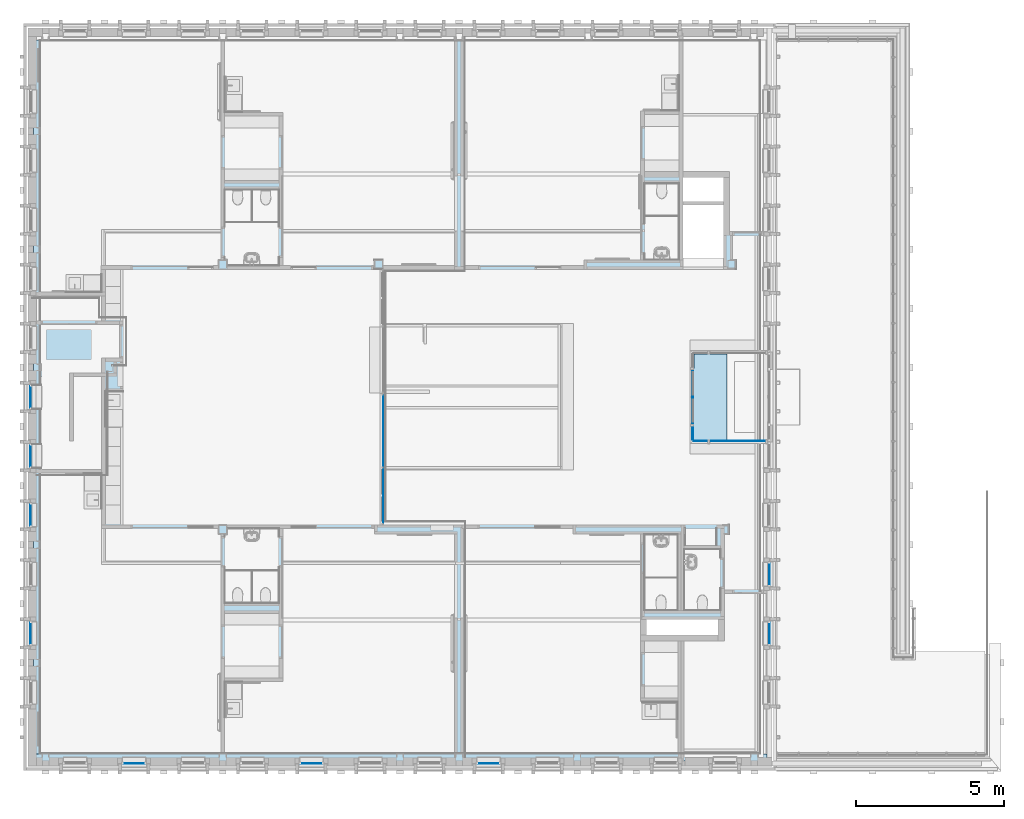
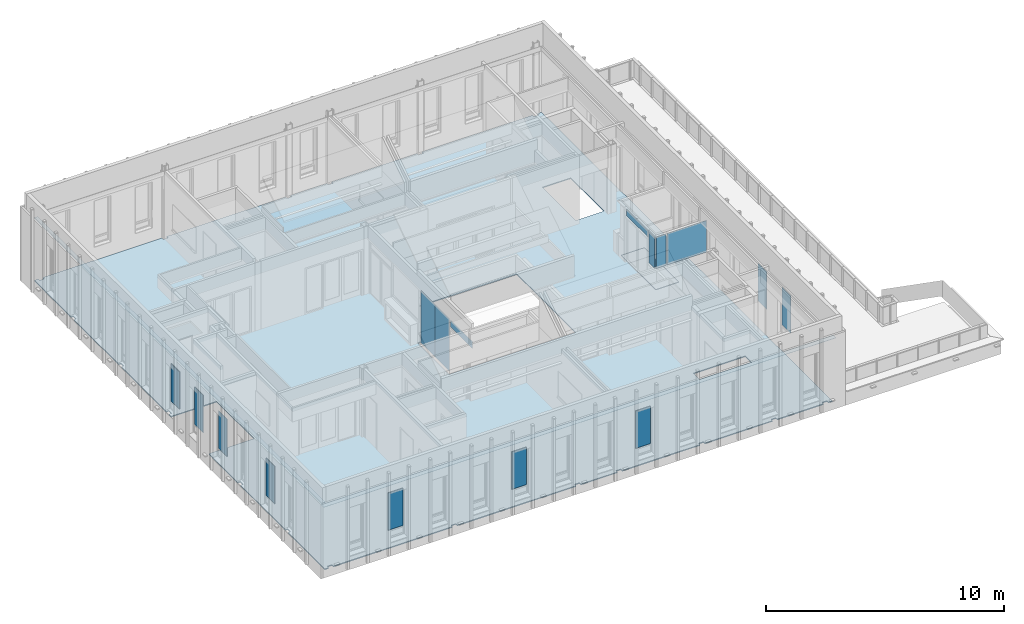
# One storey, part 18 of 118: 16 plates, 4 slabs, 3 openings, 13 elements without a shape of their own.
"""IFC2X3 building model written with IfcOpenShell, lengths in millimetres."""

from ifc_helpers import new_model, entity, si_unit, converted_unit, derived_unit, direction, frame, frame_2d, origin, origin_2d_with_axis, place, context, subcontext, project, spatial, polyline, rectangle, outline, extrude, source, transform, mapped, material, layer, layer_set, layer_usage, type_object, type_shapes, element, aggregate, save


model = new_model("IFC2X3")

# Units and contexts
model_context = context("Model", 3, precision=0.01, world=origin(), true_north=direction((6.123031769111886e-17, 1.0)))
plan_context = context("Plan", 3, precision=0.01, world=origin(), true_north=direction((6.123031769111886e-17, 1.0)))
body_context = subcontext(model_context, "Body", "Model", "MODEL_VIEW")
ifc_project = project(units=[si_unit("LENGTHUNIT", "METRE", prefix="MILLI"), si_unit("AREAUNIT", "SQUARE_METRE"), si_unit("VOLUMEUNIT", "CUBIC_METRE"), converted_unit("PLANEANGLEUNIT", "DEGREE", entity("IfcRatioMeasure", 0.017453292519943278), si_unit("PLANEANGLEUNIT", "RADIAN"), dimensions=[0, 0, 0, 0, 0, 0, 0]), si_unit("MASSUNIT", "GRAM", prefix="KILO"), derived_unit("MASSDENSITYUNIT", [(si_unit("MASSUNIT", "GRAM", prefix="KILO"), 1), (si_unit("LENGTHUNIT", "METRE"), -3)]), derived_unit("IONCONCENTRATIONUNIT", [(si_unit("MASSUNIT", "GRAM", prefix="KILO"), 1), (si_unit("LENGTHUNIT", "METRE"), -3)]), derived_unit("MOMENTOFINERTIAUNIT", [(si_unit("LENGTHUNIT", "METRE"), 4)]), si_unit("TIMEUNIT", "SECOND"), si_unit("FREQUENCYUNIT", "HERTZ"), si_unit("THERMODYNAMICTEMPERATUREUNIT", "DEGREE_CELSIUS"), derived_unit("THERMALTRANSMITTANCEUNIT", [(si_unit("MASSUNIT", "GRAM", prefix="KILO"), 1), (si_unit("THERMODYNAMICTEMPERATUREUNIT", "KELVIN"), -1), (si_unit("TIMEUNIT", "SECOND"), -3)]), derived_unit("THERMALCONDUCTANCEUNIT", [(si_unit("MASSUNIT", "GRAM", prefix="KILO"), 1), (si_unit("THERMODYNAMICTEMPERATUREUNIT", "KELVIN"), -1), (si_unit("TIMEUNIT", "SECOND"), -3), (si_unit("LENGTHUNIT", "METRE"), 1)]), derived_unit("VOLUMETRICFLOWRATEUNIT", [(si_unit("LENGTHUNIT", "METRE"), 3), (si_unit("TIMEUNIT", "SECOND"), -1)]), derived_unit("MASSFLOWRATEUNIT", [(si_unit("MASSUNIT", "GRAM", prefix="KILO"), 1), (si_unit("TIMEUNIT", "SECOND"), -1)]), derived_unit("ROTATIONALFREQUENCYUNIT", [(si_unit("TIMEUNIT", "SECOND"), -1)]), si_unit("ELECTRICCURRENTUNIT", "AMPERE"), si_unit("ELECTRICVOLTAGEUNIT", "VOLT"), si_unit("POWERUNIT", "WATT"), si_unit("FORCEUNIT", "NEWTON", prefix="KILO"), si_unit("ILLUMINANCEUNIT", "LUX"), si_unit("LUMINOUSFLUXUNIT", "LUMEN"), si_unit("LUMINOUSINTENSITYUNIT", "CANDELA"), derived_unit("USERDEFINED", [(si_unit("MASSUNIT", "GRAM", prefix="KILO"), -1), (si_unit("LENGTHUNIT", "METRE"), -2), (si_unit("TIMEUNIT", "SECOND"), 3), (si_unit("LUMINOUSFLUXUNIT", "LUMEN"), 1)]), derived_unit("USERDEFINED", [(si_unit("MASSUNIT", "GRAM", prefix="KILO"), 1), (si_unit("TIMEUNIT", "SECOND"), -3), (si_unit("LENGTHUNIT", "METRE"), 3), (si_unit("ELECTRICCURRENTUNIT", "AMPERE"), -2)]), derived_unit("SOUNDPOWERUNIT", [(si_unit("MASSUNIT", "GRAM", prefix="KILO"), 1), (si_unit("TIMEUNIT", "SECOND"), -3), (si_unit("LENGTHUNIT", "METRE"), 2)]), derived_unit("SOUNDPRESSUREUNIT", [(si_unit("MASSUNIT", "GRAM", prefix="KILO"), 1), (si_unit("LENGTHUNIT", "METRE"), -1), (si_unit("TIMEUNIT", "SECOND"), -2)]), derived_unit("LINEARVELOCITYUNIT", [(si_unit("LENGTHUNIT", "METRE"), 1), (si_unit("TIMEUNIT", "SECOND"), -1)]), si_unit("PRESSUREUNIT", "PASCAL"), derived_unit("USERDEFINED", [(si_unit("MASSUNIT", "GRAM", prefix="KILO"), 1), (si_unit("LENGTHUNIT", "METRE"), -2), (si_unit("TIMEUNIT", "SECOND"), -2)]), derived_unit("LINEARFORCEUNIT", [(si_unit("MASSUNIT", "GRAM", prefix="KILO"), 1), (si_unit("TIMEUNIT", "SECOND"), -2)]), derived_unit("PLANARFORCEUNIT", [(si_unit("MASSUNIT", "GRAM", prefix="KILO"), 1), (si_unit("LENGTHUNIT", "METRE"), -1), (si_unit("TIMEUNIT", "SECOND"), -2)]), derived_unit("SPECIFICHEATCAPACITYUNIT", [(si_unit("THERMODYNAMICTEMPERATUREUNIT", "KELVIN"), -1), (si_unit("LENGTHUNIT", "METRE"), 2), (si_unit("TIMEUNIT", "SECOND"), -2)]), derived_unit("HEATINGVALUEUNIT", [(si_unit("LENGTHUNIT", "METRE"), 2), (si_unit("TIMEUNIT", "SECOND"), -2)]), derived_unit("VAPORPERMEABILITYUNIT", [(si_unit("LENGTHUNIT", "METRE"), -1), (si_unit("TIMEUNIT", "SECOND"), 1)]), derived_unit("DYNAMICVISCOSITYUNIT", [(si_unit("MASSUNIT", "GRAM", prefix="KILO"), 1), (si_unit("TIMEUNIT", "SECOND"), -1), (si_unit("LENGTHUNIT", "METRE"), -1)]), derived_unit("THERMALEXPANSIONCOEFFICIENTUNIT", [(si_unit("THERMODYNAMICTEMPERATUREUNIT", "KELVIN"), -1)]), derived_unit("MODULUSOFELASTICITYUNIT", [(si_unit("MASSUNIT", "GRAM", prefix="KILO"), 1), (si_unit("LENGTHUNIT", "METRE"), -1), (si_unit("TIMEUNIT", "SECOND"), -2)]), derived_unit("ISOTHERMALMOISTURECAPACITYUNIT", [(si_unit("LENGTHUNIT", "METRE"), 3), (si_unit("MASSUNIT", "GRAM", prefix="KILO"), -1)]), derived_unit("MOISTUREDIFFUSIVITYUNIT", [(si_unit("TIMEUNIT", "SECOND"), -1), (si_unit("LENGTHUNIT", "METRE"), 2)])], contexts=[model_context, plan_context])

# Site, building, storey
site_placement = place(None, origin())
site = spatial("IfcSite", under=ifc_project, at=site_placement, Name="Locatie", CompositionType="ELEMENT")
building_placement = place(site_placement, origin())
building = spatial("IfcBuilding", under=site, at=building_placement, Name="Bouwwerk", CompositionType="ELEMENT")
storey_placement = place(building_placement, frame((0.0, 0.0, 7800.0)))
storey = spatial("IfcBuildingStorey", under=building, at=storey_placement, Name="02 tweede verdieping", CompositionType="ELEMENT", Elevation=7800.000000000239)

# Slab, openings
ifc_material_1 = material(Name="q2_cementdekvloer")
ifc_layer_1 = layer(ifc_material_1, 50.0)
ifc_layer_set_1 = layer_set([ifc_layer_1], Name="Floor:NLRS_43_FL_cementdekvloer 50_gen_ISR")
ifc_layer_usage_1 = layer_usage(ifc_layer_set_1, "AXIS3", "POSITIVE", 0.0)
slab_type_1 = type_object("IfcSlabType", Name="Floor:NLRS_43_FL_cementdekvloer 50_gen_ISR", PredefinedType="FLOOR", material=ifc_layer_set_1)
slab_1_placement = place(storey_placement, frame((10000.0, 10000.0, -50.0)))
slab_1 = element("IfcSlab", 1, at=slab_1_placement, inside=storey, type_object=slab_type_1, material=ifc_layer_usage_1, Name="Floor:NLRS_43_FL_cementdekvloer 50_gen_ISR", ObjectType="Floor:NLRS_43_FL_cementdekvloer 50_gen_ISR", PredefinedType="FLOOR", context=body_context, shape_type="SweptSolid", body=[
    extrude(outline(polyline([(-12115.0, -12200.0), (-12115.0, -12085.0), (-11885.0, -12085.0), (-11885.0, -12200.0), (-9627.50000055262, -12200.0), (-9627.50000055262, -12085.0), (-9397.500000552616, -12085.0), (-9397.500000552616, -12200.0), (-6115.0, -12200.0), (-6115.0, -12085.0), (-5885.0, -12085.0), (-5885.0, -12200.0), (-2115.0, -12200.0), (-2115.0, -12085.0), (-1885.0, -12085.0), (-1885.0, -12200.0), (-115.0, -12200.0), (-115.0, -12085.0), (115.0, -12085.0), (115.0, -12200.0), (5885.0, -12200.0), (5885.0, -12085.0), (6115.0, -12085.0), (6115.0, -12200.0), (11885.0, -12200.0), (11885.0, -12085.0), (12115.0, -12085.0), (12115.0, -12200.0), (12300.0, -12200.0), (12300.0, -9115.0), (12185.0, -9115.0), (12185.0, -8885.0), (12300.0, -8885.0), (12300.0, -5115.755486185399), (12185.0, -5115.755486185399), (12185.0, -4885.755486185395), (12300.0, -4885.755486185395), (12300.0, -2450.0), (10100.0, -2450.0), (10100.0, 695.0), (12300.0, 695.0), (12300.0, 885.0), (12185.0, 885.0), (12185.0, 1115.0), (12300.0, 1115.0), (12300.0, 4885.0), (12185.0, 4885.0), (12185.0, 5115.0), (12300.0, 5115.0), (12300.0, 8885.0), (12185.0, 8885.0), (12185.0, 9115.0), (12300.0, 9115.0), (12300.0, 12200.0), (12115.0, 12200.0), (12115.0, 12085.0), (11885.0, 12085.0), (11885.0, 12200.0), (6115.0, 12200.0), (6115.0, 12085.0), (5885.0, 12085.0), (5885.0, 12200.0), (115.0, 12200.0), (115.0, 12085.0), (-115.0, 12085.0), (-115.0, 12200.0), (-1885.0, 12200.0), (-1885.0, 12085.0), (-2115.0, 12085.0), (-2115.0, 12200.0), (-6262.500000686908, 12200.0), (-6262.500000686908, 12085.0), (-6492.500000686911, 12085.0), (-6492.500000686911, 12200.0), (-11860.326227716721, 12200.0), (-11860.326227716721, 12085.0), (-12090.326227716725, 12085.0), (-12090.326227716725, 12200.0), (-12300.0, 12200.0), (-12300.0, -12200.0), (-12115.0, -12200.0)])), frame((12300.0, 12200.0, 50.0), z_axis=(0.0, 0.0, -1.0), x_axis=(-1.0, 0.0, 0.0)), (0.0, 0.0, 1.0), 49.99999999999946),
])
opening_1_placement = place(slab_1_placement, origin())
element("IfcOpeningElement", 2, at=opening_1_placement, cuts=slab_1, Name="Floor:NLRS_43_FL_cementdekvloer 50_gen_ISR", ObjectType="Opening", context=body_context, shape_type="SweptSolid", body=[
    extrude(rectangle(XDim=2800.999999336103, YDim=1379.9999990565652, at=frame_2d((2.1600499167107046e-12, -2.1600499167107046e-12), x_axis=(1.0, 0.0))), frame((22565.0, 18224.499999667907, 50.0), z_axis=(0.0, 0.0, -1.0), x_axis=(0.0, 1.0, 0.0)), (0.0, 0.0, 1.0), 50.0),
])
opening_2_placement = place(slab_1_placement, origin())
element("IfcOpeningElement", 3, at=opening_2_placement, cuts=slab_1, Name="Floor:NLRS_43_FL_cementdekvloer 50_gen_ISR", ObjectType="Opening", context=body_context, shape_type="SweptSolid", body=[
    extrude(outline(polyline([(-2962.6157784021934, -2233.2499998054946), (-302.65266450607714, -2233.2499998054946), (-302.65266450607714, -873.250000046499), (1259.884221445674, -873.250000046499), (1259.884221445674, -798.250000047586), (2005.3842214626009, -798.250000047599), (2005.3842214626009, 3904.749999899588), (-2962.6157784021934, 3904.749999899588), (-2962.6157784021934, -2233.2499998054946)])), frame((13873.250000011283, 12684.952664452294, 50.0), z_axis=(0.0, 0.0, -1.0), x_axis=(0.0, 1.0, 0.0)), (0.0, 0.0, 1.0), 50.0),
])
opening_3_placement = place(slab_1_placement, origin())
element("IfcOpeningElement", 4, at=opening_3_placement, cuts=slab_1, Name="Floor:NLRS_43_FL_cementdekvloer 50_gen_ISR", ObjectType="Opening", context=body_context, shape_type="SweptSolid", body=[
    extrude(rectangle(XDim=2505.0000073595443, YDim=519.9999999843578, at=frame_2d((-2.1600499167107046e-12, -2.1884716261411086e-12), x_axis=(1.0, 0.0))), frame((21822.499996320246, 4410.0, 50.0), z_axis=(0.0, 0.0, -1.0), x_axis=(-1.0, 0.0, 0.0)), (0.0, 0.0, 1.0), 50.0),
])

# Curtain wall, plate
curtain_wall_type_1 = type_object("IfcCurtainWallType", Name="Curtain Wall:NLRS_21_CW_Ontwerpkozijn_aluminium_RT72", PredefinedType="NOTDEFINED")
curtain_wall_1_placement = place(storey_placement, frame((0.0, 0.0, -7800.0)))
curtain_wall_1 = element("IfcCurtainWall", 5, at=curtain_wall_1_placement, inside=storey, type_object=curtain_wall_type_1, Name="Curtain Wall:NLRS_21_CW_Ontwerpkozijn_aluminium_RT72", ObjectType="Curtain Wall:NLRS_21_CW_Ontwerpkozijn_aluminium_RT72")
ifc_material_2 = material(Name="ISR_Glas")
plate_type_1 = type_object("IfcPlateType", Name="System Panel:RT72_glas", PredefinedType="CURTAIN_PANEL", material=ifc_material_2)
shared_shape_1 = source(origin(), body_context, "Body", "SweptSolid", [
    extrude(rectangle(XDim=23.0, YDim=713.999999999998, at=origin_2d_with_axis()), frame((0.0, 53.5, 0.0), z_axis=(0.0, 0.0, 1.0), x_axis=(0.0, 1.0, 0.0)), (0.0, 0.0, 1.0), 1918.999999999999),
])
type_shapes(plate_type_1, [shared_shape_1])
plate_1_placement = place(curtain_wall_1_placement, frame((25300.0, 9847.0, 8876.0), z_axis=(0.0, 0.0, 1.0), x_axis=(-1.0, 0.0, 0.0)))
plate_1 = element("IfcPlate", 6, at=plate_1_placement, type_object=plate_type_1, material=ifc_material_2, Name="System Panel:RT72_glas", ObjectType="System Panel:RT72_glas", context=body_context, shape_type="MappedRepresentation", body=[
    mapped(shared_shape_1, transform((0.0, 0.0, 0.0), scale=1.0)),
])
aggregate(curtain_wall_1, [plate_1])

curtain_wall_2_placement = place(storey_placement, frame((0.0, 0.0, -7800.0)))
curtain_wall_2 = element("IfcCurtainWall", 7, at=curtain_wall_2_placement, inside=storey, type_object=curtain_wall_type_1, Name="Curtain Wall:NLRS_21_CW_Ontwerpkozijn_aluminium_RT72", ObjectType="Curtain Wall:NLRS_21_CW_Ontwerpkozijn_aluminium_RT72")
plate_2_placement = place(curtain_wall_2_placement, frame((19300.0, 9847.0, 8876.0), z_axis=(0.0, 0.0, 1.0), x_axis=(-1.0, 0.0, 0.0)))
plate_2 = element("IfcPlate", 8, at=plate_2_placement, type_object=plate_type_1, material=ifc_material_2, Name="System Panel:RT72_glas", ObjectType="System Panel:RT72_glas", context=body_context, shape_type="MappedRepresentation", body=[
    mapped(shared_shape_1, transform((0.0, 0.0, 0.0), scale=1.0)),
])
aggregate(curtain_wall_2, [plate_2])

curtain_wall_3_placement = place(storey_placement, frame((0.0, 0.0, -7800.0)))
curtain_wall_3 = element("IfcCurtainWall", 9, at=curtain_wall_3_placement, inside=storey, type_object=curtain_wall_type_1, Name="Curtain Wall:NLRS_21_CW_Ontwerpkozijn_aluminium_RT72", ObjectType="Curtain Wall:NLRS_21_CW_Ontwerpkozijn_aluminium_RT72")
plate_3_placement = place(curtain_wall_3_placement, frame((13300.0, 9847.0, 8876.0), z_axis=(0.0, 0.0, 1.0), x_axis=(-1.0, 0.0, 0.0)))
plate_3 = element("IfcPlate", 10, at=plate_3_placement, type_object=plate_type_1, material=ifc_material_2, Name="System Panel:RT72_glas", ObjectType="System Panel:RT72_glas", context=body_context, shape_type="MappedRepresentation", body=[
    mapped(shared_shape_1, transform((0.0, 0.0, 0.0), scale=1.0)),
])
aggregate(curtain_wall_3, [plate_3])

curtain_wall_4_placement = place(storey_placement, frame((0.0, 0.0, -7800.0)))
curtain_wall_4 = element("IfcCurtainWall", 11, at=curtain_wall_4_placement, inside=storey, type_object=curtain_wall_type_1, Name="Curtain Wall:NLRS_21_CW_Ontwerpkozijn_aluminium_RT72", ObjectType="Curtain Wall:NLRS_21_CW_Ontwerpkozijn_aluminium_RT72")
plate_4_placement = place(curtain_wall_4_placement, frame((34753.0, 14200.0, 8876.0), z_axis=(0.0, 0.0, 1.0), x_axis=(0.0, -1.0, 0.0)))
plate_4 = element("IfcPlate", 12, at=plate_4_placement, type_object=plate_type_1, material=ifc_material_2, Name="System Panel:RT72_glas", ObjectType="System Panel:RT72_glas", context=body_context, shape_type="MappedRepresentation", body=[
    mapped(shared_shape_1, transform((0.0, 0.0, 0.0), scale=1.0)),
])
aggregate(curtain_wall_4, [plate_4])

curtain_wall_5_placement = place(storey_placement, frame((0.0, 0.0, -7800.0)))
curtain_wall_5 = element("IfcCurtainWall", 13, at=curtain_wall_5_placement, inside=storey, type_object=curtain_wall_type_1, Name="Curtain Wall:NLRS_21_CW_Ontwerpkozijn_aluminium_RT72", ObjectType="Curtain Wall:NLRS_21_CW_Ontwerpkozijn_aluminium_RT72")
plate_5_placement = place(curtain_wall_5_placement, frame((34753.0, 16200.0, 8876.0), z_axis=(0.0, 0.0, 1.0), x_axis=(0.0, -1.0, 0.0)))
plate_5 = element("IfcPlate", 14, at=plate_5_placement, type_object=plate_type_1, material=ifc_material_2, Name="System Panel:RT72_glas", ObjectType="System Panel:RT72_glas", context=body_context, shape_type="MappedRepresentation", body=[
    mapped(shared_shape_1, transform((0.0, 0.0, 0.0), scale=1.0)),
])
aggregate(curtain_wall_5, [plate_5])

curtain_wall_6_placement = place(storey_placement, frame((0.0, 0.0, -7800.0)))
curtain_wall_6 = element("IfcCurtainWall", 15, at=curtain_wall_6_placement, inside=storey, type_object=curtain_wall_type_1, Name="Curtain Wall:NLRS_21_CW_Ontwerpkozijn_aluminium_RT72", ObjectType="Curtain Wall:NLRS_21_CW_Ontwerpkozijn_aluminium_RT72")
plate_6_placement = place(curtain_wall_6_placement, frame((9847.0, 14200.0, 8876.0), z_axis=(0.0, 0.0, 1.0), x_axis=(0.0, 1.0, 0.0)))
plate_6 = element("IfcPlate", 16, at=plate_6_placement, type_object=plate_type_1, material=ifc_material_2, Name="System Panel:RT72_glas", ObjectType="System Panel:RT72_glas", context=body_context, shape_type="MappedRepresentation", body=[
    mapped(shared_shape_1, transform((0.0, 0.0, 0.0), scale=1.0)),
])
aggregate(curtain_wall_6, [plate_6])

curtain_wall_7_placement = place(storey_placement, frame((0.0, 0.0, -7800.0)))
curtain_wall_7 = element("IfcCurtainWall", 17, at=curtain_wall_7_placement, inside=storey, type_object=curtain_wall_type_1, Name="Curtain Wall:NLRS_21_CW_Ontwerpkozijn_aluminium_RT72", ObjectType="Curtain Wall:NLRS_21_CW_Ontwerpkozijn_aluminium_RT72")
plate_7_placement = place(curtain_wall_7_placement, frame((9847.0, 18200.0, 8876.0), z_axis=(0.0, 0.0, 1.0), x_axis=(0.0, 1.0, 0.0)))
plate_7 = element("IfcPlate", 18, at=plate_7_placement, type_object=plate_type_1, material=ifc_material_2, Name="System Panel:RT72_glas", ObjectType="System Panel:RT72_glas", context=body_context, shape_type="MappedRepresentation", body=[
    mapped(shared_shape_1, transform((0.0, 0.0, 0.0), scale=1.0)),
])
aggregate(curtain_wall_7, [plate_7])

curtain_wall_8_placement = place(storey_placement, frame((0.0, 0.0, -7800.0)))
curtain_wall_8 = element("IfcCurtainWall", 19, at=curtain_wall_8_placement, inside=storey, type_object=curtain_wall_type_1, Name="Curtain Wall:NLRS_21_CW_Ontwerpkozijn_aluminium_RT72", ObjectType="Curtain Wall:NLRS_21_CW_Ontwerpkozijn_aluminium_RT72")
plate_8_placement = place(curtain_wall_8_placement, frame((9847.0, 20200.0, 8876.0), z_axis=(0.0, 0.0, 1.0), x_axis=(0.0, 1.0, 0.0)))
plate_8 = element("IfcPlate", 20, at=plate_8_placement, type_object=plate_type_1, material=ifc_material_2, Name="System Panel:RT72_glas", ObjectType="System Panel:RT72_glas", context=body_context, shape_type="MappedRepresentation", body=[
    mapped(shared_shape_1, transform((0.0, 0.0, 0.0), scale=1.0)),
])
aggregate(curtain_wall_8, [plate_8])

curtain_wall_9_placement = place(storey_placement, frame((0.0, 0.0, -7800.0)))
curtain_wall_9 = element("IfcCurtainWall", 21, at=curtain_wall_9_placement, inside=storey, type_object=curtain_wall_type_1, Name="Curtain Wall:NLRS_21_CW_Ontwerpkozijn_aluminium_RT72", ObjectType="Curtain Wall:NLRS_21_CW_Ontwerpkozijn_aluminium_RT72")
plate_9_placement = place(curtain_wall_9_placement, frame((9847.0, 22200.0, 8876.0), z_axis=(0.0, 0.0, 1.0), x_axis=(0.0, 1.0, 0.0)))
plate_9 = element("IfcPlate", 22, at=plate_9_placement, type_object=plate_type_1, material=ifc_material_2, Name="System Panel:RT72_glas", ObjectType="System Panel:RT72_glas", context=body_context, shape_type="MappedRepresentation", body=[
    mapped(shared_shape_1, transform((0.0, 0.0, 0.0), scale=1.0)),
])
aggregate(curtain_wall_9, [plate_9])

# Curtain wall, plates
curtain_wall_type_2 = type_object("IfcCurtainWallType", Name="Curtain Wall:32_BDG_Jansen Economy 50", PredefinedType="NOTDEFINED")
curtain_wall_10_placement = place(storey_placement, frame((0.0, 0.0, -7800.0)))
curtain_wall_10 = element("IfcCurtainWall", 23, at=curtain_wall_10_placement, inside=storey, type_object=curtain_wall_type_2, Name="Curtain Wall:32_BDG_Jansen Economy 50", ObjectType="Curtain Wall:32_BDG_Jansen Economy 50")
plate_type_2 = type_object("IfcPlateType", Name="System Panel:glas binnen stalen kozijnen", PredefinedType="CURTAIN_PANEL", material=ifc_material_2)
shared_shape_2 = source(origin(), body_context, "Body", "SweptSolid", [
    extrude(rectangle(XDim=2679.9999999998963, YDim=1206.249999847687, at=frame_2d((-158.12500000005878, 0.0), x_axis=(1.0, 0.0))), frame((0.0, 13.55000000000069, 1498.125000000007), z_axis=(0.0, 1.0, 0.0), x_axis=(0.0, 0.0, 1.0)), (0.0, 0.0, 1.0), 5.5),
])
type_shapes(plate_type_2, [shared_shape_2])
plate_10_placement = place(curtain_wall_10_placement, frame((21717.0, 21656.711885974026, 7860.0), z_axis=(0.0, 0.0, 1.0), x_axis=(0.0, -1.0, 0.0)))
plate_10 = element("IfcPlate", 24, at=plate_10_placement, type_object=plate_type_2, material=ifc_material_2, Name="System Panel:glas binnen stalen kozijnen", ObjectType="System Panel:glas binnen stalen kozijnen", context=body_context, shape_type="MappedRepresentation", body=[
    mapped(shared_shape_2, transform((0.0, 0.0, 0.0), scale=1.0)),
])
plate_11_placement = place(curtain_wall_10_placement, frame((21717.0, 20450.461886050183, 7860.0), z_axis=(0.0, 0.0, 1.0), x_axis=(0.0, -1.0, 0.0)))
plate_11 = element("IfcPlate", 25, at=plate_11_placement, type_object=plate_type_2, material=ifc_material_2, Name="System Panel:glas binnen stalen kozijnen", ObjectType="System Panel:glas binnen stalen kozijnen", context=body_context, shape_type="MappedRepresentation", body=[
    mapped(shared_shape_2, transform((0.0, 0.0, 0.0), scale=1.0)),
])
plate_type_3 = type_object("IfcPlateType", Name="System Panel:glas binnen stalen kozijnen", PredefinedType="CURTAIN_PANEL", material=ifc_material_2)
shared_shape_3 = source(origin(), body_context, "Body", "SweptSolid", [
    extrude(rectangle(XDim=357.49999999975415, YDim=1852.3368863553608, at=frame_2d((0.0, -0.3894810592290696), x_axis=(1.0, 0.0))), frame((0.3894810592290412, 13.549999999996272, 178.74999999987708), z_axis=(0.0, 1.0, 0.0), x_axis=(0.0, 0.0, 1.0)), (0.0, 0.0, 1.0), 5.5),
])
type_shapes(plate_type_3, [shared_shape_3])
plate_12_placement = place(curtain_wall_10_placement, frame((21717.0, 18861.168442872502, 10182.500000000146), z_axis=(0.0, 0.0, 1.0), x_axis=(0.0, -1.0, 0.0)))
plate_12 = element("IfcPlate", 26, at=plate_12_placement, type_object=plate_type_3, material=ifc_material_2, Name="System Panel:glas binnen stalen kozijnen", ObjectType="System Panel:glas binnen stalen kozijnen", context=body_context, shape_type="MappedRepresentation", body=[
    mapped(shared_shape_3, transform((0.0, 0.0, 0.0), scale=1.0)),
])
aggregate(curtain_wall_10, [plate_10, plate_11, plate_12])

# Curtain wall, plate
curtain_wall_type_3 = type_object("IfcCurtainWallType", Name="Curtain Wall:32_ontwerpkozijn binnen 125*67", PredefinedType="NOTDEFINED")
curtain_wall_11_placement = place(storey_placement, frame((0.0, 0.0, -7800.0)))
curtain_wall_11 = element("IfcCurtainWall", 27, at=curtain_wall_11_placement, inside=storey, type_object=curtain_wall_type_3, Name="Curtain Wall:32_ontwerpkozijn binnen 125*67", ObjectType="Curtain Wall:32_ontwerpkozijn binnen 125*67")
plate_type_4 = type_object("IfcPlateType", Name="System Panel:glas_offset-35", PredefinedType="CURTAIN_PANEL", material=ifc_material_2)
shared_shape_4 = source(origin(), body_context, "Body", "SweptSolid", [
    extrude(rectangle(XDim=346.00000000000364, YDim=1831.9999999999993, at=origin_2d_with_axis()), frame((0.0, -53.500000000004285, 173.0), z_axis=(0.0, 1.0, 0.0), x_axis=(0.0, 0.0, 1.0)), (0.0, 0.0, 1.0), 25.0),
])
type_shapes(plate_type_4, [shared_shape_4])
plate_13_placement = place(curtain_wall_11_placement, frame((32250.0, 22200.0, 10187.0), z_axis=(0.0, 0.0, 1.0), x_axis=(0.0, -1.0, 0.0)))
plate_13 = element("IfcPlate", 28, at=plate_13_placement, type_object=plate_type_4, material=ifc_material_2, Name="System Panel:glas_offset-35", ObjectType="System Panel:glas_offset-35", context=body_context, shape_type="MappedRepresentation", body=[
    mapped(shared_shape_4, transform((0.0, 0.0, 0.0), scale=1.0)),
])
aggregate(curtain_wall_11, [plate_13])

curtain_wall_12_placement = place(storey_placement, frame((0.0, 0.0, -7800.0)))
curtain_wall_12 = element("IfcCurtainWall", 29, at=curtain_wall_12_placement, inside=storey, type_object=curtain_wall_type_3, Name="Curtain Wall:32_ontwerpkozijn binnen 125*67", ObjectType="Curtain Wall:32_ontwerpkozijn binnen 125*67")
plate_type_5 = type_object("IfcPlateType", Name="System Panel:glas_offset-35", PredefinedType="CURTAIN_PANEL", material=ifc_material_2)
shared_shape_5 = source(origin(), body_context, "Body", "SweptSolid", [
    extrude(rectangle(XDim=25.0, YDim=466.99999999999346, at=origin_2d_with_axis()), frame((0.0, 41.0, 0.0), z_axis=(0.0, 0.0, 1.0), x_axis=(0.0, 1.0, 0.0)), (0.0, 0.0, 1.0), 1616.000000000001),
])
type_shapes(plate_type_5, [shared_shape_5])
plate_14_placement = place(curtain_wall_12_placement, frame((32250.0, 20983.500000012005, 8917.0), z_axis=(0.0, 0.0, 1.0), x_axis=(0.0, 1.0, 0.0)))
plate_14 = element("IfcPlate", 30, at=plate_14_placement, type_object=plate_type_5, material=ifc_material_2, Name="System Panel:glas_offset-35", ObjectType="System Panel:glas_offset-35", context=body_context, shape_type="MappedRepresentation", body=[
    mapped(shared_shape_5, transform((0.0, 0.0, 0.0), scale=1.0)),
])
aggregate(curtain_wall_12, [plate_14])

curtain_wall_13_placement = place(storey_placement, frame((0.0, 0.0, -7800.0)))
curtain_wall_13 = element("IfcCurtainWall", 31, at=curtain_wall_13_placement, inside=storey, type_object=curtain_wall_type_3, Name="Curtain Wall:32_ontwerpkozijn binnen 125*67", ObjectType="Curtain Wall:32_ontwerpkozijn binnen 125*67")
plate_15_placement = place(curtain_wall_13_placement, frame((32483.500000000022, 20750.0, 8917.0), z_axis=(0.0, 0.0, 1.0), x_axis=(-1.0, 0.0, 0.0)))
plate_15 = element("IfcPlate", 32, at=plate_15_placement, type_object=plate_type_5, material=ifc_material_2, Name="System Panel:glas_offset-35", ObjectType="System Panel:glas_offset-35", context=body_context, shape_type="MappedRepresentation", body=[
    mapped(shared_shape_5, transform((0.0, 0.0, 0.0), scale=1.0)),
])

# Slab
ifc_material_3 = material(Name="ISR_Vloer_afwerking_schoonloop")
ifc_layer_2 = layer(ifc_material_3, 5.0)
ifc_layer_set_2 = layer_set([ifc_layer_2], Name="Floor:43_FL_schoonloopmat_5")
ifc_layer_usage_2 = layer_usage(ifc_layer_set_2, "AXIS3", "POSITIVE", 0.0)
slab_type_2 = type_object("IfcSlabType", Name="Floor:43_FL_schoonloopmat_5", PredefinedType="FLOOR", material=ifc_layer_set_2)
slab_2_placement = place(storey_placement, origin())
element("IfcSlab", 33, at=slab_2_placement, inside=storey, type_object=slab_type_2, material=ifc_layer_usage_2, Name="Floor:43_FL_schoonloopmat_5", ObjectType="Floor:43_FL_schoonloopmat_5", PredefinedType="FLOOR", context=body_context, shape_type="SweptSolid", body=[
    extrude(rectangle(XDim=2899.9999999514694, YDim=1124.9999999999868, at=origin_2d_with_axis()), frame((32812.50000000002, 22200.0, 5.0), z_axis=(0.0, 0.0, -1.0), x_axis=(0.0, 1.0, 0.0)), (0.0, 0.0, 1.0), 4.999999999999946),
])

# Plate
plate_type_6 = type_object("IfcPlateType", Name="System Panel:glas_offset-35", PredefinedType="CURTAIN_PANEL", material=ifc_material_2)
shared_shape_6 = source(origin(), body_context, "Body", "SweptSolid", [
    extrude(rectangle(XDim=25.0, YDim=1896.8000000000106, at=origin_2d_with_axis()), frame((0.0, 41.0, 0.0), z_axis=(0.0, 0.0, 1.0), x_axis=(0.0, 1.0, 0.0)), (0.0, 0.0, 1.0), 1616.000000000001),
])
type_shapes(plate_type_6, [shared_shape_6])
plate_16_placement = place(curtain_wall_13_placement, frame((33732.40000000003, 20750.0, 8917.0), z_axis=(0.0, 0.0, 1.0), x_axis=(-1.0, 0.0, 0.0)))
plate_16 = element("IfcPlate", 34, at=plate_16_placement, type_object=plate_type_6, material=ifc_material_2, Name="System Panel:glas_offset-35", ObjectType="System Panel:glas_offset-35", context=body_context, shape_type="MappedRepresentation", body=[
    mapped(shared_shape_6, transform((0.0, 0.0, 0.0), scale=1.0)),
])

aggregate(curtain_wall_13, [plate_16, plate_15])

# Slabs
ifc_material_4 = material(Name="ISR_brandwerende beplating")
ifc_layer_3 = layer(ifc_material_4, 15.0)
ifc_layer_set_3 = layer_set([ifc_layer_3], Name="Floor:43_FL_brandwerende beplating_15")
ifc_layer_usage_3 = layer_usage(ifc_layer_set_3, "AXIS3", "POSITIVE", 0.0)
slab_type_3 = type_object("IfcSlabType", Name="Floor:43_FL_brandwerende beplating_15", PredefinedType="FLOOR", material=ifc_layer_set_3)
slab_3_placement = place(storey_placement, origin())
element("IfcSlab", 35, at=slab_3_placement, inside=storey, type_object=slab_type_3, material=ifc_layer_usage_3, Name="Floor:43_FL_brandwerende beplating_15", ObjectType="Floor:43_FL_brandwerende beplating_15", PredefinedType="FLOOR", context=body_context, shape_type="SweptSolid", body=[
    extrude(rectangle(XDim=24159.999999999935, YDim=200.00000000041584, at=frame_2d((1.8189894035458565e-12, -8.662937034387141e-11), x_axis=(1.0, 0.0))), frame((10000.0, 22200.0, 3310.0), z_axis=(0.0, 0.0, -1.0), x_axis=(0.0, 1.0, 0.0)), (0.0, 0.0, 1.0), 15.000000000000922),
])
slab_4_placement = place(storey_placement, frame((9880.0, 9880.0, 3255.0)))
element("IfcSlab", 36, at=slab_4_placement, inside=storey, type_object=slab_type_3, material=ifc_layer_usage_3, Name="Floor:43_FL_brandwerende beplating_15", ObjectType="Floor:43_FL_brandwerende beplating_15", PredefinedType="FLOOR", context=body_context, shape_type="SweptSolid", body=[
    extrude(rectangle(XDim=240.0000000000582, YDim=24840.000000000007, at=frame_2d((0.0, -12200.0), x_axis=(0.0, -1.0))), frame((12420.0, 12320.0, 15.0), z_axis=(0.0, 0.0, -1.0), x_axis=(-1.0, 0.0, 0.0)), (0.0, 0.0, 1.0), 15.000000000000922),
])

save(model, "model.ifc")
